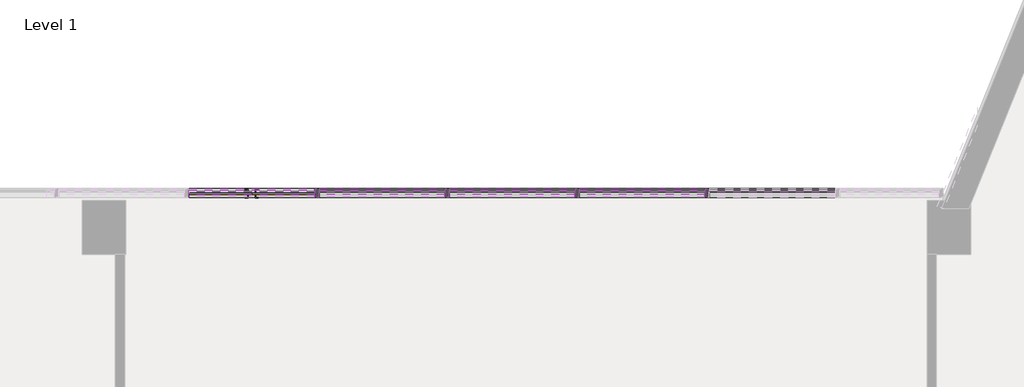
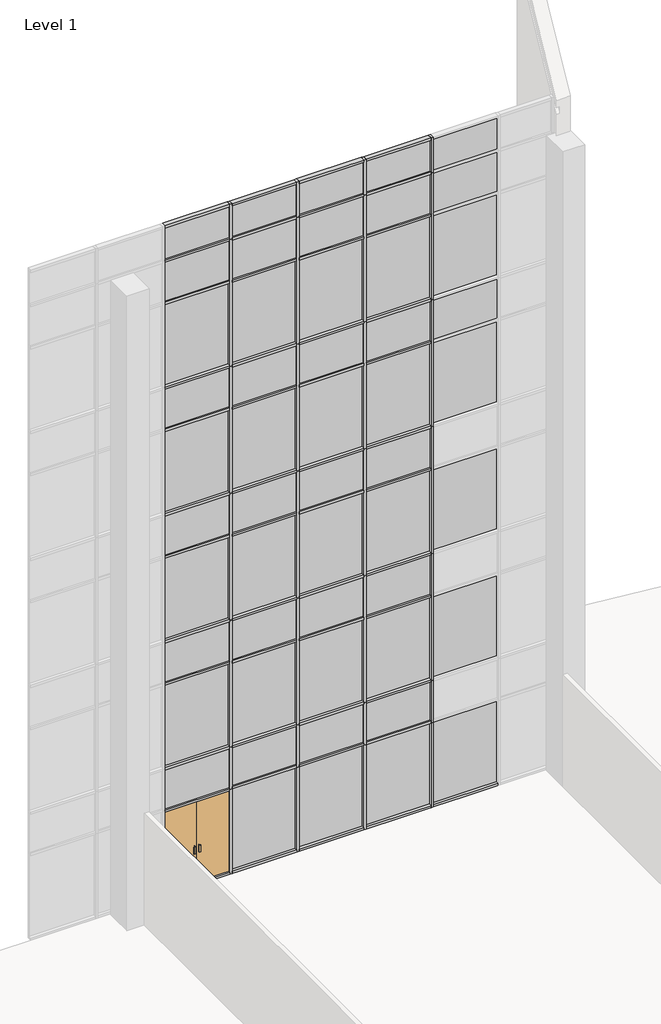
# One storey, part 14 of 23: 77 members, 51 plates, 1 door.
"""IFC4 building model written with IfcOpenShell, lengths in millimetres."""

from ifc_helpers import new_model, si_unit, origin, place, context, project, spatial, transform, mapped, element, save
from components import curtain_wall_dbl_glass_curtain_wall_dbl_glass_821f5a63, member_2b49869a, member_f92b8aa2, member_810865a4, member_f0fea5a5, member_6d5c3e5e, member_9764dd38, system_panel_glazed_14c75400, system_panel_solid_5dfe6f83, system_panel_solid_e25e2004, system_panel_solid_b7551183

model = new_model("IFC4")

# Units and contexts
model_context = context("Model", 3, world=origin())
ifc_project = project(units=[si_unit("LENGTHUNIT", "METRE", prefix="MILLI")], contexts=[model_context])

# Site, building, storey
site = spatial("IfcSite", under=ifc_project)
building = spatial("IfcBuilding", under=site)
storey = spatial("IfcBuildingStorey", under=building, Name="Level 1", Elevation=0.0)

# Door
placement = place(None, origin())
curtain_wall_dbl_glass_curtain_wall_dbl_glass_shape = curtain_wall_dbl_glass_curtain_wall_dbl_glass_821f5a63(model_context)
element("IfcDoor", 1, ObjectType="Curtain Wall Dbl Glass : Curtain Wall Dbl Glass", at=placement, inside=storey, context=model_context, shape_type="MappedRepresentation", body=[
    mapped(curtain_wall_dbl_glass_curtain_wall_dbl_glass_shape, transform((-42545.8623649, 10017.7896508, 63.5), x_axis=(1.0, 0.0, 0.0), y_axis=(0.0, 1.0, 0.0), z_axis=(0.0, 0.0, 1.0))),
])

# Members
member_shape = member_2b49869a(model_context)
element("IfcMember", 2, ObjectType="Rectangular Mullion : 2.5\" x 5\" rectangular", at=placement, inside=storey, context=model_context, shape_type="MappedRepresentation", body=[
    mapped(member_shape, transform((-37973.8623649, 10017.7896508, 2438.4), x_axis=(1.0, 0.0, 0.0), y_axis=(0.0, -1.0, 0.0), z_axis=(0.0, 0.0, -1.0))),
])
element("IfcMember", 3, ObjectType="Rectangular Mullion : 2.5\" x 5\" rectangular", at=placement, inside=storey, context=model_context, shape_type="MappedRepresentation", body=[
    mapped(member_shape, transform((-39802.6623649, 10017.7896508, 2438.4), x_axis=(1.0, 0.0, 0.0), y_axis=(0.0, -1.0, 0.0), z_axis=(0.0, 0.0, -1.0))),
])
element("IfcMember", 4, ObjectType="Rectangular Mullion : 2.5\" x 5\" rectangular", at=placement, inside=storey, context=model_context, shape_type="MappedRepresentation", body=[
    mapped(member_shape, transform((-36145.0623649, 10017.7896508, 2438.4), x_axis=(1.0, 0.0, 0.0), y_axis=(0.0, -1.0, 0.0), z_axis=(0.0, 0.0, -1.0))),
])
member_2_shape = member_f92b8aa2(model_context)
element("IfcMember", 5, ObjectType="Rectangular Mullion : 2.5\" x 5\" rectangular", at=placement, inside=storey, context=model_context, shape_type="MappedRepresentation", body=[
    mapped(member_2_shape, transform((-37973.8623649, 10017.7896508, 18288.0), x_axis=(1.0, 0.0, 0.0), y_axis=(0.0, -1.0, 0.0), z_axis=(0.0, 0.0, -1.0))),
])
element("IfcMember", 6, ObjectType="Rectangular Mullion : 2.5\" x 5\" rectangular", at=placement, inside=storey, context=model_context, shape_type="MappedRepresentation", body=[
    mapped(member_2_shape, transform((-39802.6623649, 10017.7896508, 18288.0), x_axis=(1.0, 0.0, 0.0), y_axis=(0.0, -1.0, 0.0), z_axis=(0.0, 0.0, -1.0))),
])
element("IfcMember", 7, ObjectType="Rectangular Mullion : 2.5\" x 5\" rectangular", at=placement, inside=storey, context=model_context, shape_type="MappedRepresentation", body=[
    mapped(member_2_shape, transform((-41631.4623649, 10017.7896508, 18288.0), x_axis=(1.0, 0.0, 0.0), y_axis=(0.0, -1.0, 0.0), z_axis=(0.0, 0.0, -1.0))),
])
element("IfcMember", 8, ObjectType="Rectangular Mullion : 2.5\" x 5\" rectangular", at=placement, inside=storey, context=model_context, shape_type="MappedRepresentation", body=[
    mapped(member_2_shape, transform((-36145.0623649, 10017.7896508, 18288.0), x_axis=(1.0, 0.0, 0.0), y_axis=(0.0, -1.0, 0.0), z_axis=(0.0, 0.0, -1.0))),
])
member_3_shape = member_810865a4(model_context)
element("IfcMember", 9, ObjectType="Rectangular Mullion : 2.5\" x 5\" rectangular", at=placement, inside=storey, context=model_context, shape_type="MappedRepresentation", body=[
    mapped(member_3_shape, transform((-36145.0623649, 10017.7896508, 14630.4), x_axis=(1.0, 0.0, 0.0), y_axis=(0.0, -1.0, 0.0), z_axis=(0.0, 0.0, -1.0))),
])
element("IfcMember", 10, ObjectType="Rectangular Mullion : 2.5\" x 5\" rectangular", at=placement, inside=storey, context=model_context, shape_type="MappedRepresentation", body=[
    mapped(member_3_shape, transform((-36145.0623649, 10017.7896508, 10972.8), x_axis=(1.0, 0.0, 0.0), y_axis=(0.0, -1.0, 0.0), z_axis=(0.0, 0.0, -1.0))),
])
element("IfcMember", 11, ObjectType="Rectangular Mullion : 2.5\" x 5\" rectangular", at=placement, inside=storey, context=model_context, shape_type="MappedRepresentation", body=[
    mapped(member_3_shape, transform((-36145.0623649, 10017.7896508, 7315.2), x_axis=(1.0, 0.0, 0.0), y_axis=(0.0, -1.0, 0.0), z_axis=(0.0, 0.0, -1.0))),
])
element("IfcMember", 12, ObjectType="Rectangular Mullion : 2.5\" x 5\" rectangular", at=placement, inside=storey, context=model_context, shape_type="MappedRepresentation", body=[
    mapped(member_3_shape, transform((-36145.0623649, 10017.7896508, 3657.6), x_axis=(1.0, 0.0, 0.0), y_axis=(0.0, -1.0, 0.0), z_axis=(0.0, 0.0, -1.0))),
])
element("IfcMember", 13, ObjectType="Rectangular Mullion : 2.5\" x 5\" rectangular", at=placement, inside=storey, context=model_context, shape_type="MappedRepresentation", body=[
    mapped(member_3_shape, transform((-37973.8623649, 10017.7896508, 14630.4), x_axis=(1.0, 0.0, 0.0), y_axis=(0.0, -1.0, 0.0), z_axis=(0.0, 0.0, -1.0))),
])
element("IfcMember", 14, ObjectType="Rectangular Mullion : 2.5\" x 5\" rectangular", at=placement, inside=storey, context=model_context, shape_type="MappedRepresentation", body=[
    mapped(member_3_shape, transform((-37973.8623649, 10017.7896508, 10972.8), x_axis=(1.0, 0.0, 0.0), y_axis=(0.0, -1.0, 0.0), z_axis=(0.0, 0.0, -1.0))),
])
element("IfcMember", 15, ObjectType="Rectangular Mullion : 2.5\" x 5\" rectangular", at=placement, inside=storey, context=model_context, shape_type="MappedRepresentation", body=[
    mapped(member_3_shape, transform((-37973.8623649, 10017.7896508, 7315.2), x_axis=(1.0, 0.0, 0.0), y_axis=(0.0, -1.0, 0.0), z_axis=(0.0, 0.0, -1.0))),
])
element("IfcMember", 16, ObjectType="Rectangular Mullion : 2.5\" x 5\" rectangular", at=placement, inside=storey, context=model_context, shape_type="MappedRepresentation", body=[
    mapped(member_3_shape, transform((-37973.8623649, 10017.7896508, 3657.6), x_axis=(1.0, 0.0, 0.0), y_axis=(0.0, -1.0, 0.0), z_axis=(0.0, 0.0, -1.0))),
])
element("IfcMember", 17, ObjectType="Rectangular Mullion : 2.5\" x 5\" rectangular", at=placement, inside=storey, context=model_context, shape_type="MappedRepresentation", body=[
    mapped(member_3_shape, transform((-39802.6623649, 10017.7896508, 14630.4), x_axis=(1.0, 0.0, 0.0), y_axis=(0.0, -1.0, 0.0), z_axis=(0.0, 0.0, -1.0))),
])
element("IfcMember", 18, ObjectType="Rectangular Mullion : 2.5\" x 5\" rectangular", at=placement, inside=storey, context=model_context, shape_type="MappedRepresentation", body=[
    mapped(member_3_shape, transform((-39802.6623649, 10017.7896508, 10972.8), x_axis=(1.0, 0.0, 0.0), y_axis=(0.0, -1.0, 0.0), z_axis=(0.0, 0.0, -1.0))),
])
element("IfcMember", 19, ObjectType="Rectangular Mullion : 2.5\" x 5\" rectangular", at=placement, inside=storey, context=model_context, shape_type="MappedRepresentation", body=[
    mapped(member_3_shape, transform((-39802.6623649, 10017.7896508, 7315.2), x_axis=(1.0, 0.0, 0.0), y_axis=(0.0, -1.0, 0.0), z_axis=(0.0, 0.0, -1.0))),
])
element("IfcMember", 20, ObjectType="Rectangular Mullion : 2.5\" x 5\" rectangular", at=placement, inside=storey, context=model_context, shape_type="MappedRepresentation", body=[
    mapped(member_3_shape, transform((-39802.6623649, 10017.7896508, 3657.6), x_axis=(1.0, 0.0, 0.0), y_axis=(0.0, -1.0, 0.0), z_axis=(0.0, 0.0, -1.0))),
])
element("IfcMember", 21, ObjectType="Rectangular Mullion : 2.5\" x 5\" rectangular", at=placement, inside=storey, context=model_context, shape_type="MappedRepresentation", body=[
    mapped(member_3_shape, transform((-41631.4623649, 10017.7896508, 14630.4), x_axis=(1.0, 0.0, 0.0), y_axis=(0.0, -1.0, 0.0), z_axis=(0.0, 0.0, -1.0))),
])
element("IfcMember", 22, ObjectType="Rectangular Mullion : 2.5\" x 5\" rectangular", at=placement, inside=storey, context=model_context, shape_type="MappedRepresentation", body=[
    mapped(member_3_shape, transform((-41631.4623649, 10017.7896508, 10972.8), x_axis=(1.0, 0.0, 0.0), y_axis=(0.0, -1.0, 0.0), z_axis=(0.0, 0.0, -1.0))),
])
element("IfcMember", 23, ObjectType="Rectangular Mullion : 2.5\" x 5\" rectangular", at=placement, inside=storey, context=model_context, shape_type="MappedRepresentation", body=[
    mapped(member_3_shape, transform((-41631.4623649, 10017.7896508, 7315.2), x_axis=(1.0, 0.0, 0.0), y_axis=(0.0, -1.0, 0.0), z_axis=(0.0, 0.0, -1.0))),
])
element("IfcMember", 24, ObjectType="Rectangular Mullion : 2.5\" x 5\" rectangular", at=placement, inside=storey, context=model_context, shape_type="MappedRepresentation", body=[
    mapped(member_3_shape, transform((-41631.4623649, 10017.7896508, 3657.6), x_axis=(1.0, 0.0, 0.0), y_axis=(0.0, -1.0, 0.0), z_axis=(0.0, 0.0, -1.0))),
])
member_4_shape = member_f0fea5a5(model_context)
element("IfcMember", 25, ObjectType="Rectangular Mullion : 2.5\" x 5\" rectangular", at=placement, inside=storey, context=model_context, shape_type="MappedRepresentation", body=[
    mapped(member_4_shape, transform((-36145.0623649, 10017.7896508, 0.0), x_axis=(1.0, 0.0, 0.0), y_axis=(0.0, -1.0, 0.0), z_axis=(0.0, 0.0, -1.0))),
])
element("IfcMember", 26, ObjectType="Rectangular Mullion : 2.5\" x 5\" rectangular", at=placement, inside=storey, context=model_context, shape_type="MappedRepresentation", body=[
    mapped(member_4_shape, transform((-37973.8623649, 10017.7896508, 0.0), x_axis=(1.0, 0.0, 0.0), y_axis=(0.0, -1.0, 0.0), z_axis=(0.0, 0.0, -1.0))),
])
element("IfcMember", 27, ObjectType="Rectangular Mullion : 2.5\" x 5\" rectangular", at=placement, inside=storey, context=model_context, shape_type="MappedRepresentation", body=[
    mapped(member_4_shape, transform((-39802.6623649, 10017.7896508, 0.0), x_axis=(1.0, 0.0, 0.0), y_axis=(0.0, -1.0, 0.0), z_axis=(0.0, 0.0, -1.0))),
])
element("IfcMember", 28, ObjectType="Rectangular Mullion : 2.5\" x 5\" rectangular", at=placement, inside=storey, context=model_context, shape_type="MappedRepresentation", body=[
    mapped(member_4_shape, transform((-41631.4623649, 10017.7896508, 0.0), x_axis=(1.0, 0.0, 0.0), y_axis=(0.0, -1.0, 0.0), z_axis=(0.0, 0.0, -1.0))),
])
element("IfcMember", 29, ObjectType="Rectangular Mullion : 2.5\" x 5\" rectangular", at=placement, inside=storey, context=model_context, shape_type="MappedRepresentation", body=[
    mapped(member_shape, transform((-41631.4623649, 10017.7896508, 2438.4), x_axis=(1.0, 0.0, 0.0), y_axis=(0.0, -1.0, 0.0), z_axis=(0.0, 0.0, -1.0))),
])
member_5_shape = member_6d5c3e5e(model_context)
element("IfcMember", 30, ObjectType="Rectangular Mullion : 2.5\" x 5\" rectangular", at=placement, inside=storey, context=model_context, shape_type="MappedRepresentation", body=[
    mapped(member_5_shape, transform((-36176.8123649, 10017.7896508, 19304.0), x_axis=(0.0, 0.0, 1.0), y_axis=(0.0, -1.0, 0.0), z_axis=(1.0, 0.0, 0.0))),
])
element("IfcMember", 31, ObjectType="Rectangular Mullion : 2.5\" x 5\" rectangular", at=placement, inside=storey, context=model_context, shape_type="MappedRepresentation", body=[
    mapped(member_5_shape, transform((-38005.6123649, 10017.7896508, 19304.0), x_axis=(0.0, 0.0, 1.0), y_axis=(0.0, -1.0, 0.0), z_axis=(1.0, 0.0, 0.0))),
])
element("IfcMember", 32, ObjectType="Rectangular Mullion : 2.5\" x 5\" rectangular", at=placement, inside=storey, context=model_context, shape_type="MappedRepresentation", body=[
    mapped(member_5_shape, transform((-39834.4123649, 10017.7896508, 19304.0), x_axis=(0.0, 0.0, 1.0), y_axis=(0.0, -1.0, 0.0), z_axis=(1.0, 0.0, 0.0))),
])
element("IfcMember", 33, ObjectType="Rectangular Mullion : 2.5\" x 5\" rectangular", at=placement, inside=storey, context=model_context, shape_type="MappedRepresentation", body=[
    mapped(member_5_shape, transform((-41663.2123649, 10017.7896508, 19304.0), x_axis=(0.0, 0.0, 1.0), y_axis=(0.0, -1.0, 0.0), z_axis=(1.0, 0.0, 0.0))),
])
member_6_shape = member_9764dd38(model_context)
element("IfcMember", 34, ObjectType="Rectangular Mullion : 2.5\" x 5\" rectangular", at=placement, inside=storey, context=model_context, shape_type="MappedRepresentation", body=[
    mapped(member_6_shape, transform((-36176.8123649, 10017.7896508, 17068.8), x_axis=(0.0, 0.0, 1.0), y_axis=(0.0, -1.0, 0.0), z_axis=(1.0, 0.0, 0.0))),
])
element("IfcMember", 35, ObjectType="Rectangular Mullion : 2.5\" x 5\" rectangular", at=placement, inside=storey, context=model_context, shape_type="MappedRepresentation", body=[
    mapped(member_6_shape, transform((-38005.6123649, 10017.7896508, 17068.8), x_axis=(0.0, 0.0, 1.0), y_axis=(0.0, -1.0, 0.0), z_axis=(1.0, 0.0, 0.0))),
])
element("IfcMember", 36, ObjectType="Rectangular Mullion : 2.5\" x 5\" rectangular", at=placement, inside=storey, context=model_context, shape_type="MappedRepresentation", body=[
    mapped(member_6_shape, transform((-39834.4123649, 10017.7896508, 17068.8), x_axis=(0.0, 0.0, 1.0), y_axis=(0.0, -1.0, 0.0), z_axis=(1.0, 0.0, 0.0))),
])
element("IfcMember", 37, ObjectType="Rectangular Mullion : 2.5\" x 5\" rectangular", at=placement, inside=storey, context=model_context, shape_type="MappedRepresentation", body=[
    mapped(member_6_shape, transform((-41663.2123649, 10017.7896508, 17068.8), x_axis=(0.0, 0.0, 1.0), y_axis=(0.0, -1.0, 0.0), z_axis=(1.0, 0.0, 0.0))),
])
element("IfcMember", 38, ObjectType="Rectangular Mullion : 2.5\" x 5\" rectangular", at=placement, inside=storey, context=model_context, shape_type="MappedRepresentation", body=[
    mapped(member_6_shape, transform((-36176.8123649, 10017.7896508, 13411.2), x_axis=(0.0, 0.0, 1.0), y_axis=(0.0, -1.0, 0.0), z_axis=(1.0, 0.0, 0.0))),
])
element("IfcMember", 39, ObjectType="Rectangular Mullion : 2.5\" x 5\" rectangular", at=placement, inside=storey, context=model_context, shape_type="MappedRepresentation", body=[
    mapped(member_6_shape, transform((-38005.6123649, 10017.7896508, 13411.2), x_axis=(0.0, 0.0, 1.0), y_axis=(0.0, -1.0, 0.0), z_axis=(1.0, 0.0, 0.0))),
])
element("IfcMember", 40, ObjectType="Rectangular Mullion : 2.5\" x 5\" rectangular", at=placement, inside=storey, context=model_context, shape_type="MappedRepresentation", body=[
    mapped(member_6_shape, transform((-39834.4123649, 10017.7896508, 13411.2), x_axis=(0.0, 0.0, 1.0), y_axis=(0.0, -1.0, 0.0), z_axis=(1.0, 0.0, 0.0))),
])
element("IfcMember", 41, ObjectType="Rectangular Mullion : 2.5\" x 5\" rectangular", at=placement, inside=storey, context=model_context, shape_type="MappedRepresentation", body=[
    mapped(member_6_shape, transform((-41663.2123649, 10017.7896508, 13411.2), x_axis=(0.0, 0.0, 1.0), y_axis=(0.0, -1.0, 0.0), z_axis=(1.0, 0.0, 0.0))),
])
element("IfcMember", 42, ObjectType="Rectangular Mullion : 2.5\" x 5\" rectangular", at=placement, inside=storey, context=model_context, shape_type="MappedRepresentation", body=[
    mapped(member_6_shape, transform((-36176.8123649, 10017.7896508, 9753.6), x_axis=(0.0, 0.0, 1.0), y_axis=(0.0, -1.0, 0.0), z_axis=(1.0, 0.0, 0.0))),
])
element("IfcMember", 43, ObjectType="Rectangular Mullion : 2.5\" x 5\" rectangular", at=placement, inside=storey, context=model_context, shape_type="MappedRepresentation", body=[
    mapped(member_6_shape, transform((-38005.6123649, 10017.7896508, 9753.6), x_axis=(0.0, 0.0, 1.0), y_axis=(0.0, -1.0, 0.0), z_axis=(1.0, 0.0, 0.0))),
])
element("IfcMember", 44, ObjectType="Rectangular Mullion : 2.5\" x 5\" rectangular", at=placement, inside=storey, context=model_context, shape_type="MappedRepresentation", body=[
    mapped(member_6_shape, transform((-39834.4123649, 10017.7896508, 9753.6), x_axis=(0.0, 0.0, 1.0), y_axis=(0.0, -1.0, 0.0), z_axis=(1.0, 0.0, 0.0))),
])
element("IfcMember", 45, ObjectType="Rectangular Mullion : 2.5\" x 5\" rectangular", at=placement, inside=storey, context=model_context, shape_type="MappedRepresentation", body=[
    mapped(member_6_shape, transform((-41663.2123649, 10017.7896508, 9753.6), x_axis=(0.0, 0.0, 1.0), y_axis=(0.0, -1.0, 0.0), z_axis=(1.0, 0.0, 0.0))),
])
element("IfcMember", 46, ObjectType="Rectangular Mullion : 2.5\" x 5\" rectangular", at=placement, inside=storey, context=model_context, shape_type="MappedRepresentation", body=[
    mapped(member_6_shape, transform((-36176.8123649, 10017.7896508, 6096.0), x_axis=(0.0, 0.0, 1.0), y_axis=(0.0, -1.0, 0.0), z_axis=(1.0, 0.0, 0.0))),
])
element("IfcMember", 47, ObjectType="Rectangular Mullion : 2.5\" x 5\" rectangular", at=placement, inside=storey, context=model_context, shape_type="MappedRepresentation", body=[
    mapped(member_6_shape, transform((-38005.6123649, 10017.7896508, 6096.0), x_axis=(0.0, 0.0, 1.0), y_axis=(0.0, -1.0, 0.0), z_axis=(1.0, 0.0, 0.0))),
])
element("IfcMember", 48, ObjectType="Rectangular Mullion : 2.5\" x 5\" rectangular", at=placement, inside=storey, context=model_context, shape_type="MappedRepresentation", body=[
    mapped(member_6_shape, transform((-39834.4123649, 10017.7896508, 6096.0), x_axis=(0.0, 0.0, 1.0), y_axis=(0.0, -1.0, 0.0), z_axis=(1.0, 0.0, 0.0))),
])
element("IfcMember", 49, ObjectType="Rectangular Mullion : 2.5\" x 5\" rectangular", at=placement, inside=storey, context=model_context, shape_type="MappedRepresentation", body=[
    mapped(member_6_shape, transform((-41663.2123649, 10017.7896508, 6096.0), x_axis=(0.0, 0.0, 1.0), y_axis=(0.0, -1.0, 0.0), z_axis=(1.0, 0.0, 0.0))),
])
element("IfcMember", 50, ObjectType="Rectangular Mullion : 2.5\" x 5\" rectangular", at=placement, inside=storey, context=model_context, shape_type="MappedRepresentation", body=[
    mapped(member_6_shape, transform((-36176.8123649, 10017.7896508, 2470.15), x_axis=(0.0, 0.0, 1.0), y_axis=(0.0, -1.0, 0.0), z_axis=(1.0, 0.0, 0.0))),
])
element("IfcMember", 51, ObjectType="Rectangular Mullion : 2.5\" x 5\" rectangular", at=placement, inside=storey, context=model_context, shape_type="MappedRepresentation", body=[
    mapped(member_6_shape, transform((-38005.6123649, 10017.7896508, 2470.15), x_axis=(0.0, 0.0, 1.0), y_axis=(0.0, -1.0, 0.0), z_axis=(1.0, 0.0, 0.0))),
])
element("IfcMember", 52, ObjectType="Rectangular Mullion : 2.5\" x 5\" rectangular", at=placement, inside=storey, context=model_context, shape_type="MappedRepresentation", body=[
    mapped(member_6_shape, transform((-39834.4123649, 10017.7896508, 2470.15), x_axis=(0.0, 0.0, 1.0), y_axis=(0.0, -1.0, 0.0), z_axis=(1.0, 0.0, 0.0))),
])
element("IfcMember", 53, ObjectType="Rectangular Mullion : 2.5\" x 5\" rectangular", at=placement, inside=storey, context=model_context, shape_type="MappedRepresentation", body=[
    mapped(member_5_shape, transform((-36113.3123649, 10017.7896508, 0.0), x_axis=(0.0, 0.0, -1.0), y_axis=(0.0, -1.0, 0.0), z_axis=(-1.0, 0.0, 0.0))),
])
element("IfcMember", 54, ObjectType="Rectangular Mullion : 2.5\" x 5\" rectangular", at=placement, inside=storey, context=model_context, shape_type="MappedRepresentation", body=[
    mapped(member_5_shape, transform((-37942.1123649, 10017.7896508, 0.0), x_axis=(0.0, 0.0, -1.0), y_axis=(0.0, -1.0, 0.0), z_axis=(-1.0, 0.0, 0.0))),
])
element("IfcMember", 55, ObjectType="Rectangular Mullion : 2.5\" x 5\" rectangular", at=placement, inside=storey, context=model_context, shape_type="MappedRepresentation", body=[
    mapped(member_5_shape, transform((-39770.9123649, 10017.7896508, 0.0), x_axis=(0.0, 0.0, -1.0), y_axis=(0.0, -1.0, 0.0), z_axis=(-1.0, 0.0, 0.0))),
])
element("IfcMember", 56, ObjectType="Rectangular Mullion : 2.5\" x 5\" rectangular", at=placement, inside=storey, context=model_context, shape_type="MappedRepresentation", body=[
    mapped(member_5_shape, transform((-41599.7123649, 10017.7896508, 0.0), x_axis=(0.0, 0.0, -1.0), y_axis=(0.0, -1.0, 0.0), z_axis=(-1.0, 0.0, 0.0))),
])
element("IfcMember", 57, ObjectType="Rectangular Mullion : 2.5\" x 5\" rectangular", at=placement, inside=storey, context=model_context, shape_type="MappedRepresentation", body=[
    mapped(member_5_shape, transform((-43428.5123649, 10017.7896508, 0.0), x_axis=(0.0, 0.0, -1.0), y_axis=(0.0, -1.0, 0.0), z_axis=(-1.0, 0.0, 0.0))),
])
element("IfcMember", 58, ObjectType="Rectangular Mullion : 2.5\" x 5\" rectangular", at=placement, inside=storey, context=model_context, shape_type="MappedRepresentation", body=[
    mapped(member_6_shape, transform((-36176.8123649, 10017.7896508, 10972.8), x_axis=(0.0, 0.0, 1.0), y_axis=(0.0, -1.0, 0.0), z_axis=(1.0, 0.0, 0.0))),
])
element("IfcMember", 59, ObjectType="Rectangular Mullion : 2.5\" x 5\" rectangular", at=placement, inside=storey, context=model_context, shape_type="MappedRepresentation", body=[
    mapped(member_6_shape, transform((-38005.6123649, 10017.7896508, 10972.8), x_axis=(0.0, 0.0, 1.0), y_axis=(0.0, -1.0, 0.0), z_axis=(1.0, 0.0, 0.0))),
])
element("IfcMember", 60, ObjectType="Rectangular Mullion : 2.5\" x 5\" rectangular", at=placement, inside=storey, context=model_context, shape_type="MappedRepresentation", body=[
    mapped(member_6_shape, transform((-39834.4123649, 10017.7896508, 10972.8), x_axis=(0.0, 0.0, 1.0), y_axis=(0.0, -1.0, 0.0), z_axis=(1.0, 0.0, 0.0))),
])
element("IfcMember", 61, ObjectType="Rectangular Mullion : 2.5\" x 5\" rectangular", at=placement, inside=storey, context=model_context, shape_type="MappedRepresentation", body=[
    mapped(member_6_shape, transform((-41663.2123649, 10017.7896508, 10972.8), x_axis=(0.0, 0.0, 1.0), y_axis=(0.0, -1.0, 0.0), z_axis=(1.0, 0.0, 0.0))),
])
element("IfcMember", 62, ObjectType="Rectangular Mullion : 2.5\" x 5\" rectangular", at=placement, inside=storey, context=model_context, shape_type="MappedRepresentation", body=[
    mapped(member_6_shape, transform((-36176.8123649, 10017.7896508, 7315.2), x_axis=(0.0, 0.0, 1.0), y_axis=(0.0, -1.0, 0.0), z_axis=(1.0, 0.0, 0.0))),
])
element("IfcMember", 63, ObjectType="Rectangular Mullion : 2.5\" x 5\" rectangular", at=placement, inside=storey, context=model_context, shape_type="MappedRepresentation", body=[
    mapped(member_6_shape, transform((-38005.6123649, 10017.7896508, 7315.2), x_axis=(0.0, 0.0, 1.0), y_axis=(0.0, -1.0, 0.0), z_axis=(1.0, 0.0, 0.0))),
])
element("IfcMember", 64, ObjectType="Rectangular Mullion : 2.5\" x 5\" rectangular", at=placement, inside=storey, context=model_context, shape_type="MappedRepresentation", body=[
    mapped(member_6_shape, transform((-39834.4123649, 10017.7896508, 7315.2), x_axis=(0.0, 0.0, 1.0), y_axis=(0.0, -1.0, 0.0), z_axis=(1.0, 0.0, 0.0))),
])
element("IfcMember", 65, ObjectType="Rectangular Mullion : 2.5\" x 5\" rectangular", at=placement, inside=storey, context=model_context, shape_type="MappedRepresentation", body=[
    mapped(member_6_shape, transform((-41663.2123649, 10017.7896508, 7315.2), x_axis=(0.0, 0.0, 1.0), y_axis=(0.0, -1.0, 0.0), z_axis=(1.0, 0.0, 0.0))),
])
element("IfcMember", 66, ObjectType="Rectangular Mullion : 2.5\" x 5\" rectangular", at=placement, inside=storey, context=model_context, shape_type="MappedRepresentation", body=[
    mapped(member_6_shape, transform((-36176.8123649, 10017.7896508, 18288.0), x_axis=(0.0, 0.0, 1.0), y_axis=(0.0, -1.0, 0.0), z_axis=(1.0, 0.0, 0.0))),
])
element("IfcMember", 67, ObjectType="Rectangular Mullion : 2.5\" x 5\" rectangular", at=placement, inside=storey, context=model_context, shape_type="MappedRepresentation", body=[
    mapped(member_6_shape, transform((-38005.6123649, 10017.7896508, 18288.0), x_axis=(0.0, 0.0, 1.0), y_axis=(0.0, -1.0, 0.0), z_axis=(1.0, 0.0, 0.0))),
])
element("IfcMember", 68, ObjectType="Rectangular Mullion : 2.5\" x 5\" rectangular", at=placement, inside=storey, context=model_context, shape_type="MappedRepresentation", body=[
    mapped(member_6_shape, transform((-39834.4123649, 10017.7896508, 18288.0), x_axis=(0.0, 0.0, 1.0), y_axis=(0.0, -1.0, 0.0), z_axis=(1.0, 0.0, 0.0))),
])
element("IfcMember", 69, ObjectType="Rectangular Mullion : 2.5\" x 5\" rectangular", at=placement, inside=storey, context=model_context, shape_type="MappedRepresentation", body=[
    mapped(member_6_shape, transform((-41663.2123649, 10017.7896508, 18288.0), x_axis=(0.0, 0.0, 1.0), y_axis=(0.0, -1.0, 0.0), z_axis=(1.0, 0.0, 0.0))),
])
element("IfcMember", 70, ObjectType="Rectangular Mullion : 2.5\" x 5\" rectangular", at=placement, inside=storey, context=model_context, shape_type="MappedRepresentation", body=[
    mapped(member_6_shape, transform((-36176.8123649, 10017.7896508, 14630.4), x_axis=(0.0, 0.0, 1.0), y_axis=(0.0, -1.0, 0.0), z_axis=(1.0, 0.0, 0.0))),
])
element("IfcMember", 71, ObjectType="Rectangular Mullion : 2.5\" x 5\" rectangular", at=placement, inside=storey, context=model_context, shape_type="MappedRepresentation", body=[
    mapped(member_6_shape, transform((-38005.6123649, 10017.7896508, 14630.4), x_axis=(0.0, 0.0, 1.0), y_axis=(0.0, -1.0, 0.0), z_axis=(1.0, 0.0, 0.0))),
])
element("IfcMember", 72, ObjectType="Rectangular Mullion : 2.5\" x 5\" rectangular", at=placement, inside=storey, context=model_context, shape_type="MappedRepresentation", body=[
    mapped(member_6_shape, transform((-39834.4123649, 10017.7896508, 14630.4), x_axis=(0.0, 0.0, 1.0), y_axis=(0.0, -1.0, 0.0), z_axis=(1.0, 0.0, 0.0))),
])
element("IfcMember", 73, ObjectType="Rectangular Mullion : 2.5\" x 5\" rectangular", at=placement, inside=storey, context=model_context, shape_type="MappedRepresentation", body=[
    mapped(member_6_shape, transform((-41663.2123649, 10017.7896508, 14630.4), x_axis=(0.0, 0.0, 1.0), y_axis=(0.0, -1.0, 0.0), z_axis=(1.0, 0.0, 0.0))),
])
element("IfcMember", 74, ObjectType="Rectangular Mullion : 2.5\" x 5\" rectangular", at=placement, inside=storey, context=model_context, shape_type="MappedRepresentation", body=[
    mapped(member_6_shape, transform((-36176.8123649, 10017.7896508, 3657.6), x_axis=(0.0, 0.0, 1.0), y_axis=(0.0, -1.0, 0.0), z_axis=(1.0, 0.0, 0.0))),
])
element("IfcMember", 75, ObjectType="Rectangular Mullion : 2.5\" x 5\" rectangular", at=placement, inside=storey, context=model_context, shape_type="MappedRepresentation", body=[
    mapped(member_6_shape, transform((-38005.6123649, 10017.7896508, 3657.6), x_axis=(0.0, 0.0, 1.0), y_axis=(0.0, -1.0, 0.0), z_axis=(1.0, 0.0, 0.0))),
])
element("IfcMember", 76, ObjectType="Rectangular Mullion : 2.5\" x 5\" rectangular", at=placement, inside=storey, context=model_context, shape_type="MappedRepresentation", body=[
    mapped(member_6_shape, transform((-39834.4123649, 10017.7896508, 3657.6), x_axis=(0.0, 0.0, 1.0), y_axis=(0.0, -1.0, 0.0), z_axis=(1.0, 0.0, 0.0))),
])
element("IfcMember", 77, ObjectType="Rectangular Mullion : 2.5\" x 5\" rectangular", at=placement, inside=storey, context=model_context, shape_type="MappedRepresentation", body=[
    mapped(member_6_shape, transform((-41663.2123649, 10017.7896508, 3657.6), x_axis=(0.0, 0.0, 1.0), y_axis=(0.0, -1.0, 0.0), z_axis=(1.0, 0.0, 0.0))),
])
element("IfcMember", 78, ObjectType="Rectangular Mullion : 2.5\" x 5\" rectangular", at=placement, inside=storey, context=model_context, shape_type="MappedRepresentation", body=[
    mapped(member_6_shape, transform((-41663.2123649, 10017.7896508, 2438.4), x_axis=(0.0, 0.0, 1.0), y_axis=(0.0, -1.0, 0.0), z_axis=(1.0, 0.0, 0.0))),
])

# Plates
system_panel_glazed_shape = system_panel_glazed_14c75400(model_context)
element("IfcPlate", 79, ObjectType="System Panel : Glazed", at=placement, inside=storey, context=model_context, shape_type="MappedRepresentation", body=[
    mapped(system_panel_glazed_shape, transform((-35230.6623649, 10017.7896508, 14662.15), x_axis=(1.0, 0.0, 0.0), y_axis=(0.0, 1.0, 0.0), z_axis=(0.0, 0.0, 1.0))),
])
element("IfcPlate", 80, ObjectType="System Panel : Glazed", at=placement, inside=storey, context=model_context, shape_type="MappedRepresentation", body=[
    mapped(system_panel_glazed_shape, transform((-37059.4623649, 10017.7896508, 14662.15), x_axis=(1.0, 0.0, 0.0), y_axis=(0.0, 1.0, 0.0), z_axis=(0.0, 0.0, 1.0))),
])
element("IfcPlate", 81, ObjectType="System Panel : Glazed", at=placement, inside=storey, context=model_context, shape_type="MappedRepresentation", body=[
    mapped(system_panel_glazed_shape, transform((-38888.2623649, 10017.7896508, 14662.15), x_axis=(1.0, 0.0, 0.0), y_axis=(0.0, 1.0, 0.0), z_axis=(0.0, 0.0, 1.0))),
])
element("IfcPlate", 82, ObjectType="System Panel : Glazed", at=placement, inside=storey, context=model_context, shape_type="MappedRepresentation", body=[
    mapped(system_panel_glazed_shape, transform((-40717.0623649, 10017.7896508, 14662.15), x_axis=(1.0, 0.0, 0.0), y_axis=(0.0, 1.0, 0.0), z_axis=(0.0, 0.0, 1.0))),
])
element("IfcPlate", 83, ObjectType="System Panel : Glazed", at=placement, inside=storey, context=model_context, shape_type="MappedRepresentation", body=[
    mapped(system_panel_glazed_shape, transform((-42545.8623649, 10017.7896508, 14662.15), x_axis=(1.0, 0.0, 0.0), y_axis=(0.0, 1.0, 0.0), z_axis=(0.0, 0.0, 1.0))),
])
element("IfcPlate", 84, ObjectType="System Panel : Glazed", at=placement, inside=storey, context=model_context, shape_type="MappedRepresentation", body=[
    mapped(system_panel_glazed_shape, transform((-35230.6623649, 10017.7896508, 11004.55), x_axis=(1.0, 0.0, 0.0), y_axis=(0.0, 1.0, 0.0), z_axis=(0.0, 0.0, 1.0))),
])
element("IfcPlate", 85, ObjectType="System Panel : Glazed", at=placement, inside=storey, context=model_context, shape_type="MappedRepresentation", body=[
    mapped(system_panel_glazed_shape, transform((-37059.4623649, 10017.7896508, 11004.55), x_axis=(1.0, 0.0, 0.0), y_axis=(0.0, 1.0, 0.0), z_axis=(0.0, 0.0, 1.0))),
])
element("IfcPlate", 86, ObjectType="System Panel : Glazed", at=placement, inside=storey, context=model_context, shape_type="MappedRepresentation", body=[
    mapped(system_panel_glazed_shape, transform((-38888.2623649, 10017.7896508, 11004.55), x_axis=(1.0, 0.0, 0.0), y_axis=(0.0, 1.0, 0.0), z_axis=(0.0, 0.0, 1.0))),
])
element("IfcPlate", 87, ObjectType="System Panel : Glazed", at=placement, inside=storey, context=model_context, shape_type="MappedRepresentation", body=[
    mapped(system_panel_glazed_shape, transform((-40717.0623649, 10017.7896508, 11004.55), x_axis=(1.0, 0.0, 0.0), y_axis=(0.0, 1.0, 0.0), z_axis=(0.0, 0.0, 1.0))),
])
element("IfcPlate", 88, ObjectType="System Panel : Glazed", at=placement, inside=storey, context=model_context, shape_type="MappedRepresentation", body=[
    mapped(system_panel_glazed_shape, transform((-42545.8623649, 10017.7896508, 11004.55), x_axis=(1.0, 0.0, 0.0), y_axis=(0.0, 1.0, 0.0), z_axis=(0.0, 0.0, 1.0))),
])
element("IfcPlate", 89, ObjectType="System Panel : Glazed", at=placement, inside=storey, context=model_context, shape_type="MappedRepresentation", body=[
    mapped(system_panel_glazed_shape, transform((-35230.6623649, 10017.7896508, 7346.95), x_axis=(1.0, 0.0, 0.0), y_axis=(0.0, 1.0, 0.0), z_axis=(0.0, 0.0, 1.0))),
])
element("IfcPlate", 90, ObjectType="System Panel : Glazed", at=placement, inside=storey, context=model_context, shape_type="MappedRepresentation", body=[
    mapped(system_panel_glazed_shape, transform((-37059.4623649, 10017.7896508, 7346.95), x_axis=(1.0, 0.0, 0.0), y_axis=(0.0, 1.0, 0.0), z_axis=(0.0, 0.0, 1.0))),
])
element("IfcPlate", 91, ObjectType="System Panel : Glazed", at=placement, inside=storey, context=model_context, shape_type="MappedRepresentation", body=[
    mapped(system_panel_glazed_shape, transform((-38888.2623649, 10017.7896508, 7346.95), x_axis=(1.0, 0.0, 0.0), y_axis=(0.0, 1.0, 0.0), z_axis=(0.0, 0.0, 1.0))),
])
element("IfcPlate", 92, ObjectType="System Panel : Glazed", at=placement, inside=storey, context=model_context, shape_type="MappedRepresentation", body=[
    mapped(system_panel_glazed_shape, transform((-40717.0623649, 10017.7896508, 7346.95), x_axis=(1.0, 0.0, 0.0), y_axis=(0.0, 1.0, 0.0), z_axis=(0.0, 0.0, 1.0))),
])
element("IfcPlate", 93, ObjectType="System Panel : Glazed", at=placement, inside=storey, context=model_context, shape_type="MappedRepresentation", body=[
    mapped(system_panel_glazed_shape, transform((-42545.8623649, 10017.7896508, 7346.95), x_axis=(1.0, 0.0, 0.0), y_axis=(0.0, 1.0, 0.0), z_axis=(0.0, 0.0, 1.0))),
])
element("IfcPlate", 94, ObjectType="System Panel : Glazed", at=placement, inside=storey, context=model_context, shape_type="MappedRepresentation", body=[
    mapped(system_panel_glazed_shape, transform((-35230.6623649, 10017.7896508, 3689.35), x_axis=(1.0, 0.0, 0.0), y_axis=(0.0, 1.0, 0.0), z_axis=(0.0, 0.0, 1.0))),
])
element("IfcPlate", 95, ObjectType="System Panel : Glazed", at=placement, inside=storey, context=model_context, shape_type="MappedRepresentation", body=[
    mapped(system_panel_glazed_shape, transform((-37059.4623649, 10017.7896508, 3689.35), x_axis=(1.0, 0.0, 0.0), y_axis=(0.0, 1.0, 0.0), z_axis=(0.0, 0.0, 1.0))),
])
element("IfcPlate", 96, ObjectType="System Panel : Glazed", at=placement, inside=storey, context=model_context, shape_type="MappedRepresentation", body=[
    mapped(system_panel_glazed_shape, transform((-38888.2623649, 10017.7896508, 3689.35), x_axis=(1.0, 0.0, 0.0), y_axis=(0.0, 1.0, 0.0), z_axis=(0.0, 0.0, 1.0))),
])
element("IfcPlate", 97, ObjectType="System Panel : Glazed", at=placement, inside=storey, context=model_context, shape_type="MappedRepresentation", body=[
    mapped(system_panel_glazed_shape, transform((-40717.0623649, 10017.7896508, 3689.35), x_axis=(1.0, 0.0, 0.0), y_axis=(0.0, 1.0, 0.0), z_axis=(0.0, 0.0, 1.0))),
])
element("IfcPlate", 98, ObjectType="System Panel : Glazed", at=placement, inside=storey, context=model_context, shape_type="MappedRepresentation", body=[
    mapped(system_panel_glazed_shape, transform((-42545.8623649, 10017.7896508, 3689.35), x_axis=(1.0, 0.0, 0.0), y_axis=(0.0, 1.0, 0.0), z_axis=(0.0, 0.0, 1.0))),
])
element("IfcPlate", 99, ObjectType="System Panel : Glazed", at=placement, inside=storey, context=model_context, shape_type="MappedRepresentation", body=[
    mapped(system_panel_glazed_shape, transform((-35230.6623649, 10017.7896508, 63.5), x_axis=(1.0, 0.0, 0.0), y_axis=(0.0, 1.0, 0.0), z_axis=(0.0, 0.0, 1.0))),
])
element("IfcPlate", 100, ObjectType="System Panel : Glazed", at=placement, inside=storey, context=model_context, shape_type="MappedRepresentation", body=[
    mapped(system_panel_glazed_shape, transform((-37059.4623649, 10017.7896508, 63.5), x_axis=(1.0, 0.0, 0.0), y_axis=(0.0, 1.0, 0.0), z_axis=(0.0, 0.0, 1.0))),
])
element("IfcPlate", 101, ObjectType="System Panel : Glazed", at=placement, inside=storey, context=model_context, shape_type="MappedRepresentation", body=[
    mapped(system_panel_glazed_shape, transform((-38888.2623649, 10017.7896508, 63.5), x_axis=(1.0, 0.0, 0.0), y_axis=(0.0, 1.0, 0.0), z_axis=(0.0, 0.0, 1.0))),
])
element("IfcPlate", 102, ObjectType="System Panel : Glazed", at=placement, inside=storey, context=model_context, shape_type="MappedRepresentation", body=[
    mapped(system_panel_glazed_shape, transform((-40717.0623649, 10017.7896508, 63.5), x_axis=(1.0, 0.0, 0.0), y_axis=(0.0, 1.0, 0.0), z_axis=(0.0, 0.0, 1.0))),
])
system_panel_solid_shape = system_panel_solid_5dfe6f83(model_context)
element("IfcPlate", 103, ObjectType="System Panel : Solid", at=placement, inside=storey, context=model_context, shape_type="MappedRepresentation", body=[
    mapped(system_panel_solid_shape, transform((-42545.8623649, 10017.7896508, 18319.75), x_axis=(1.0, 0.0, 0.0), y_axis=(0.0, 1.0, 0.0), z_axis=(0.0, 0.0, 1.0))),
])
element("IfcPlate", 104, ObjectType="System Panel : Solid", at=placement, inside=storey, context=model_context, shape_type="MappedRepresentation", body=[
    mapped(system_panel_solid_shape, transform((-40717.0623649, 10017.7896508, 18319.75), x_axis=(1.0, 0.0, 0.0), y_axis=(0.0, 1.0, 0.0), z_axis=(0.0, 0.0, 1.0))),
])
element("IfcPlate", 105, ObjectType="System Panel : Solid", at=placement, inside=storey, context=model_context, shape_type="MappedRepresentation", body=[
    mapped(system_panel_solid_shape, transform((-38888.2623649, 10017.7896508, 18319.75), x_axis=(1.0, 0.0, 0.0), y_axis=(0.0, 1.0, 0.0), z_axis=(0.0, 0.0, 1.0))),
])
element("IfcPlate", 106, ObjectType="System Panel : Solid", at=placement, inside=storey, context=model_context, shape_type="MappedRepresentation", body=[
    mapped(system_panel_solid_shape, transform((-37059.4623649, 10017.7896508, 18319.75), x_axis=(1.0, 0.0, 0.0), y_axis=(0.0, 1.0, 0.0), z_axis=(0.0, 0.0, 1.0))),
])
element("IfcPlate", 107, ObjectType="System Panel : Solid", at=placement, inside=storey, context=model_context, shape_type="MappedRepresentation", body=[
    mapped(system_panel_solid_shape, transform((-35230.6623649, 10017.7896508, 18319.75), x_axis=(1.0, 0.0, 0.0), y_axis=(0.0, 1.0, 0.0), z_axis=(0.0, 0.0, 1.0))),
])
system_panel_solid_2_shape = system_panel_solid_e25e2004(model_context)
element("IfcPlate", 108, ObjectType="System Panel : Solid", at=placement, inside=storey, context=model_context, shape_type="MappedRepresentation", body=[
    mapped(system_panel_solid_2_shape, transform((-42545.8623649, 10017.7896508, 2470.15), x_axis=(1.0, 0.0, 0.0), y_axis=(0.0, 1.0, 0.0), z_axis=(0.0, 0.0, 1.0))),
])
element("IfcPlate", 109, ObjectType="System Panel : Solid", at=placement, inside=storey, context=model_context, shape_type="MappedRepresentation", body=[
    mapped(system_panel_solid_2_shape, transform((-35230.6623649, 10017.7896508, 17100.55), x_axis=(1.0, 0.0, 0.0), y_axis=(0.0, 1.0, 0.0), z_axis=(0.0, 0.0, 1.0))),
])
element("IfcPlate", 110, ObjectType="System Panel : Solid", at=placement, inside=storey, context=model_context, shape_type="MappedRepresentation", body=[
    mapped(system_panel_solid_2_shape, transform((-37059.4623649, 10017.7896508, 17100.55), x_axis=(1.0, 0.0, 0.0), y_axis=(0.0, 1.0, 0.0), z_axis=(0.0, 0.0, 1.0))),
])
element("IfcPlate", 111, ObjectType="System Panel : Solid", at=placement, inside=storey, context=model_context, shape_type="MappedRepresentation", body=[
    mapped(system_panel_solid_2_shape, transform((-38888.2623649, 10017.7896508, 17100.55), x_axis=(1.0, 0.0, 0.0), y_axis=(0.0, 1.0, 0.0), z_axis=(0.0, 0.0, 1.0))),
])
element("IfcPlate", 112, ObjectType="System Panel : Solid", at=placement, inside=storey, context=model_context, shape_type="MappedRepresentation", body=[
    mapped(system_panel_solid_2_shape, transform((-40717.0623649, 10017.7896508, 17100.55), x_axis=(1.0, 0.0, 0.0), y_axis=(0.0, 1.0, 0.0), z_axis=(0.0, 0.0, 1.0))),
])
element("IfcPlate", 113, ObjectType="System Panel : Solid", at=placement, inside=storey, context=model_context, shape_type="MappedRepresentation", body=[
    mapped(system_panel_solid_2_shape, transform((-42545.8623649, 10017.7896508, 17100.55), x_axis=(1.0, 0.0, 0.0), y_axis=(0.0, 1.0, 0.0), z_axis=(0.0, 0.0, 1.0))),
])
element("IfcPlate", 114, ObjectType="System Panel : Solid", at=placement, inside=storey, context=model_context, shape_type="MappedRepresentation", body=[
    mapped(system_panel_solid_2_shape, transform((-35230.6623649, 10017.7896508, 13442.95), x_axis=(1.0, 0.0, 0.0), y_axis=(0.0, 1.0, 0.0), z_axis=(0.0, 0.0, 1.0))),
])
element("IfcPlate", 115, ObjectType="System Panel : Solid", at=placement, inside=storey, context=model_context, shape_type="MappedRepresentation", body=[
    mapped(system_panel_solid_2_shape, transform((-37059.4623649, 10017.7896508, 13442.95), x_axis=(1.0, 0.0, 0.0), y_axis=(0.0, 1.0, 0.0), z_axis=(0.0, 0.0, 1.0))),
])
element("IfcPlate", 116, ObjectType="System Panel : Solid", at=placement, inside=storey, context=model_context, shape_type="MappedRepresentation", body=[
    mapped(system_panel_solid_2_shape, transform((-38888.2623649, 10017.7896508, 13442.95), x_axis=(1.0, 0.0, 0.0), y_axis=(0.0, 1.0, 0.0), z_axis=(0.0, 0.0, 1.0))),
])
element("IfcPlate", 117, ObjectType="System Panel : Solid", at=placement, inside=storey, context=model_context, shape_type="MappedRepresentation", body=[
    mapped(system_panel_solid_2_shape, transform((-40717.0623649, 10017.7896508, 13442.95), x_axis=(1.0, 0.0, 0.0), y_axis=(0.0, 1.0, 0.0), z_axis=(0.0, 0.0, 1.0))),
])
element("IfcPlate", 118, ObjectType="System Panel : Solid", at=placement, inside=storey, context=model_context, shape_type="MappedRepresentation", body=[
    mapped(system_panel_solid_2_shape, transform((-42545.8623649, 10017.7896508, 13442.95), x_axis=(1.0, 0.0, 0.0), y_axis=(0.0, 1.0, 0.0), z_axis=(0.0, 0.0, 1.0))),
])
element("IfcPlate", 119, ObjectType="System Panel : Solid", at=placement, inside=storey, context=model_context, shape_type="MappedRepresentation", body=[
    mapped(system_panel_solid_2_shape, transform((-37059.4623649, 10017.7896508, 9785.35), x_axis=(1.0, 0.0, 0.0), y_axis=(0.0, 1.0, 0.0), z_axis=(0.0, 0.0, 1.0))),
])
element("IfcPlate", 120, ObjectType="System Panel : Solid", at=placement, inside=storey, context=model_context, shape_type="MappedRepresentation", body=[
    mapped(system_panel_solid_2_shape, transform((-38888.2623649, 10017.7896508, 9785.35), x_axis=(1.0, 0.0, 0.0), y_axis=(0.0, 1.0, 0.0), z_axis=(0.0, 0.0, 1.0))),
])
element("IfcPlate", 121, ObjectType="System Panel : Solid", at=placement, inside=storey, context=model_context, shape_type="MappedRepresentation", body=[
    mapped(system_panel_solid_2_shape, transform((-40717.0623649, 10017.7896508, 9785.35), x_axis=(1.0, 0.0, 0.0), y_axis=(0.0, 1.0, 0.0), z_axis=(0.0, 0.0, 1.0))),
])
element("IfcPlate", 122, ObjectType="System Panel : Solid", at=placement, inside=storey, context=model_context, shape_type="MappedRepresentation", body=[
    mapped(system_panel_solid_2_shape, transform((-42545.8623649, 10017.7896508, 9785.35), x_axis=(1.0, 0.0, 0.0), y_axis=(0.0, 1.0, 0.0), z_axis=(0.0, 0.0, 1.0))),
])
element("IfcPlate", 123, ObjectType="System Panel : Solid", at=placement, inside=storey, context=model_context, shape_type="MappedRepresentation", body=[
    mapped(system_panel_solid_2_shape, transform((-37059.4623649, 10017.7896508, 6127.75), x_axis=(1.0, 0.0, 0.0), y_axis=(0.0, 1.0, 0.0), z_axis=(0.0, 0.0, 1.0))),
])
element("IfcPlate", 124, ObjectType="System Panel : Solid", at=placement, inside=storey, context=model_context, shape_type="MappedRepresentation", body=[
    mapped(system_panel_solid_2_shape, transform((-38888.2623649, 10017.7896508, 6127.75), x_axis=(1.0, 0.0, 0.0), y_axis=(0.0, 1.0, 0.0), z_axis=(0.0, 0.0, 1.0))),
])
element("IfcPlate", 125, ObjectType="System Panel : Solid", at=placement, inside=storey, context=model_context, shape_type="MappedRepresentation", body=[
    mapped(system_panel_solid_2_shape, transform((-40717.0623649, 10017.7896508, 6127.75), x_axis=(1.0, 0.0, 0.0), y_axis=(0.0, 1.0, 0.0), z_axis=(0.0, 0.0, 1.0))),
])
element("IfcPlate", 126, ObjectType="System Panel : Solid", at=placement, inside=storey, context=model_context, shape_type="MappedRepresentation", body=[
    mapped(system_panel_solid_2_shape, transform((-42545.8623649, 10017.7896508, 6127.75), x_axis=(1.0, 0.0, 0.0), y_axis=(0.0, 1.0, 0.0), z_axis=(0.0, 0.0, 1.0))),
])
system_panel_solid_3_shape = system_panel_solid_b7551183(model_context)
element("IfcPlate", 127, ObjectType="System Panel : Solid", at=placement, inside=storey, context=model_context, shape_type="MappedRepresentation", body=[
    mapped(system_panel_solid_3_shape, transform((-37059.4623649, 10017.7896508, 2501.9), x_axis=(1.0, 0.0, 0.0), y_axis=(0.0, 1.0, 0.0), z_axis=(0.0, 0.0, 1.0))),
])
element("IfcPlate", 128, ObjectType="System Panel : Solid", at=placement, inside=storey, context=model_context, shape_type="MappedRepresentation", body=[
    mapped(system_panel_solid_3_shape, transform((-38888.2623649, 10017.7896508, 2501.9), x_axis=(1.0, 0.0, 0.0), y_axis=(0.0, 1.0, 0.0), z_axis=(0.0, 0.0, 1.0))),
])
element("IfcPlate", 129, ObjectType="System Panel : Solid", at=placement, inside=storey, context=model_context, shape_type="MappedRepresentation", body=[
    mapped(system_panel_solid_3_shape, transform((-40717.0623649, 10017.7896508, 2501.9), x_axis=(1.0, 0.0, 0.0), y_axis=(0.0, 1.0, 0.0), z_axis=(0.0, 0.0, 1.0))),
])

save(model, "model.ifc")
